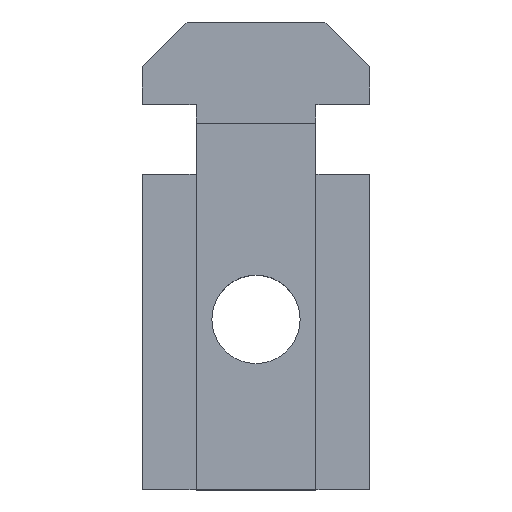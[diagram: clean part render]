
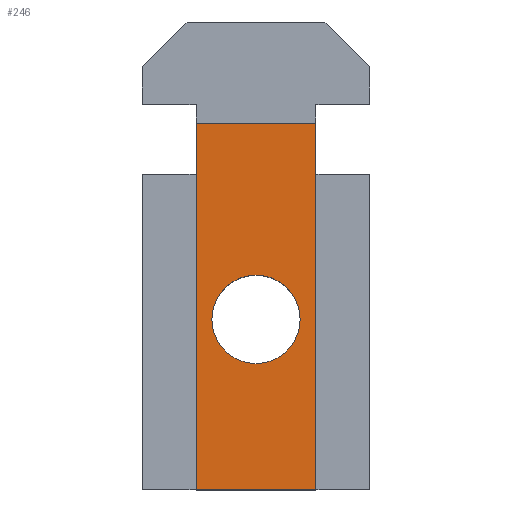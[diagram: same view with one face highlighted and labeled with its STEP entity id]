
A CAD part, top view. The second image highlights one B-rep face of the part: STEP entity #246.
In plain terms, the highlighted planar face has unit normal (0, 0, 1).
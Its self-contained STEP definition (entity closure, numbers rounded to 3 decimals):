
#2 = LINE ( 'NONE', #134, #347 ) ;
#5 = CARTESIAN_POINT ( 'NONE',  ( -30.144, -33.076, 9.997 ) ) ;
#9 = VERTEX_POINT ( 'NONE', #783 ) ;
#17 = DIRECTION ( 'NONE',  ( 0., 0., -1. ) ) ;
#22 = VERTEX_POINT ( 'NONE', #682 ) ;
#35 = EDGE_CURVE ( 'NONE', #245, #52, #492, .T. ) ;
#42 = CARTESIAN_POINT ( 'NONE',  ( -20.646, -4.076, 9.997 ) ) ;
#52 = VERTEX_POINT ( 'NONE', #841 ) ;
#77 = DIRECTION ( 'NONE',  ( 1., 0., 0. ) ) ;
#101 = VECTOR ( 'NONE', #459, 1000. ) ;
#122 = DIRECTION ( 'NONE',  ( -1., 0., 0. ) ) ;
#134 = CARTESIAN_POINT ( 'NONE',  ( -30.144, -33.076, 9.997 ) ) ;
#167 = DIRECTION ( 'NONE',  ( 0., 1., 0. ) ) ;
#173 = EDGE_LOOP ( 'NONE', ( #411, #358, #729, #666 ) ) ;
#181 = PLANE ( 'NONE',  #829 ) ;
#182 = CIRCLE ( 'NONE', #332, 3.5 ) ;
#226 = EDGE_LOOP ( 'NONE', ( #580, #798 ) ) ;
#245 = VERTEX_POINT ( 'NONE', #42 ) ;
#246 = ADVANCED_FACE ( 'NONE', ( #634, #815 ), #181, .F. ) ;
#332 = AXIS2_PLACEMENT_3D ( 'NONE', #934, #486, #77 ) ;
#347 = VECTOR ( 'NONE', #692, 1000. ) ;
#352 = EDGE_CURVE ( 'NONE', #733, #22, #182, .T. ) ;
#358 = ORIENTED_EDGE ( 'NONE', *, *, #749, .F. ) ;
#387 = CARTESIAN_POINT ( 'NONE',  ( -30.144, -8.076, 9.997 ) ) ;
#389 = CARTESIAN_POINT ( 'NONE',  ( -25.397, -19.576, 9.997 ) ) ;
#394 = AXIS2_PLACEMENT_3D ( 'NONE', #389, #904, #460 ) ;
#403 = VERTEX_POINT ( 'NONE', #5 ) ;
#411 = ORIENTED_EDGE ( 'NONE', *, *, #35, .T. ) ;
#430 = CARTESIAN_POINT ( 'NONE',  ( -20.646, -8.076, 9.997 ) ) ;
#448 = LINE ( 'NONE', #581, #842 ) ;
#459 = DIRECTION ( 'NONE',  ( 0., 1., 0. ) ) ;
#460 = DIRECTION ( 'NONE',  ( 1., 0., 0. ) ) ;
#486 = DIRECTION ( 'NONE',  ( 0., 0., 1. ) ) ;
#492 = LINE ( 'NONE', #530, #687 ) ;
#494 = EDGE_CURVE ( 'NONE', #403, #9, #2, .T. ) ;
#499 = DIRECTION ( 'NONE',  ( -1., 0., 0. ) ) ;
#530 = CARTESIAN_POINT ( 'NONE',  ( -20.646, -4.076, 9.997 ) ) ;
#580 = ORIENTED_EDGE ( 'NONE', *, *, #352, .F. ) ;
#581 = CARTESIAN_POINT ( 'NONE',  ( -20.646, -8.076, 9.997 ) ) ;
#634 = FACE_BOUND ( 'NONE', #226, .T. ) ;
#666 = ORIENTED_EDGE ( 'NONE', *, *, #832, .T. ) ;
#682 = CARTESIAN_POINT ( 'NONE',  ( -28.897, -19.576, 9.997 ) ) ;
#687 = VECTOR ( 'NONE', #122, 1000. ) ;
#692 = DIRECTION ( 'NONE',  ( 1., 0., 0. ) ) ;
#729 = ORIENTED_EDGE ( 'NONE', *, *, #494, .T. ) ;
#733 = VERTEX_POINT ( 'NONE', #746 ) ;
#746 = CARTESIAN_POINT ( 'NONE',  ( -21.897, -19.576, 9.997 ) ) ;
#749 = EDGE_CURVE ( 'NONE', #403, #52, #838, .T. ) ;
#762 = EDGE_CURVE ( 'NONE', #22, #733, #813, .T. ) ;
#783 = CARTESIAN_POINT ( 'NONE',  ( -20.646, -33.076, 9.997 ) ) ;
#798 = ORIENTED_EDGE ( 'NONE', *, *, #762, .F. ) ;
#813 = CIRCLE ( 'NONE', #394, 3.5 ) ;
#815 = FACE_OUTER_BOUND ( 'NONE', #173, .T. ) ;
#829 = AXIS2_PLACEMENT_3D ( 'NONE', #430, #17, #499 ) ;
#832 = EDGE_CURVE ( 'NONE', #9, #245, #448, .T. ) ;
#838 = LINE ( 'NONE', #387, #101 ) ;
#841 = CARTESIAN_POINT ( 'NONE',  ( -30.144, -4.076, 9.997 ) ) ;
#842 = VECTOR ( 'NONE', #167, 1000. ) ;
#904 = DIRECTION ( 'NONE',  ( 0., 0., 1. ) ) ;
#934 = CARTESIAN_POINT ( 'NONE',  ( -25.397, -19.576, 9.997 ) ) ;
